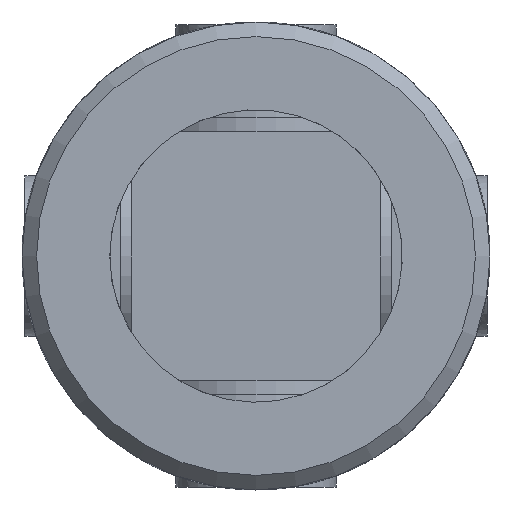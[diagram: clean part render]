
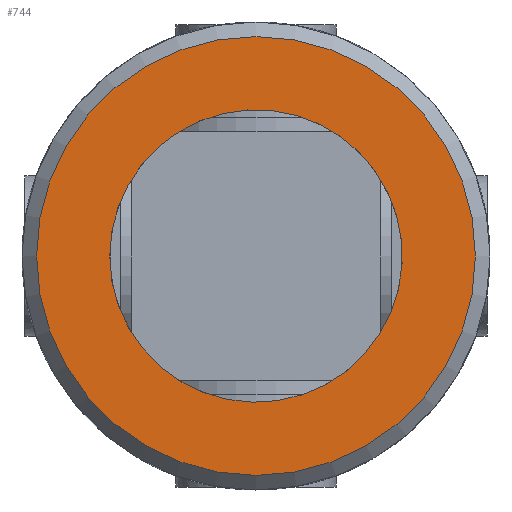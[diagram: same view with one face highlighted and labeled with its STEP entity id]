
A CAD part, front view. The second image highlights one B-rep face of the part: STEP entity #744.
In plain terms, the highlighted planar face has unit normal (0, -1, 0).
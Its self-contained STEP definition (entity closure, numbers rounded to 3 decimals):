
#143=PLANE('',#816);
#168=FACE_BOUND('',#259,.T.);
#195=FACE_OUTER_BOUND('',#258,.T.);
#258=EDGE_LOOP('',(#594));
#259=EDGE_LOOP('',(#595));
#300=CIRCLE('',#801,10.);
#308=CIRCLE('',#814,15.);
#348=VERTEX_POINT('',#1147);
#362=VERTEX_POINT('',#1241);
#423=EDGE_CURVE('',#348,#348,#300,.T.);
#442=EDGE_CURVE('',#362,#362,#308,.T.);
#594=ORIENTED_EDGE('',*,*,#442,.F.);
#595=ORIENTED_EDGE('',*,*,#423,.T.);
#744=ADVANCED_FACE('',(#195,#168),#143,.F.);
#801=AXIS2_PLACEMENT_3D('',#1148,#936,#937);
#814=AXIS2_PLACEMENT_3D('',#1242,#967,#968);
#816=AXIS2_PLACEMENT_3D('',#1454,#975,#976);
#936=DIRECTION('center_axis',(0.,1.,0.));
#937=DIRECTION('ref_axis',(-1.,0.,0.));
#967=DIRECTION('center_axis',(0.,1.,0.));
#968=DIRECTION('ref_axis',(1.,0.,0.));
#975=DIRECTION('center_axis',(0.,1.,0.));
#976=DIRECTION('ref_axis',(0.,0.,1.));
#1147=CARTESIAN_POINT('',(10.,-51.,0.));
#1148=CARTESIAN_POINT('Origin',(0.,-51.,0.));
#1241=CARTESIAN_POINT('',(-15.,-51.,0.));
#1242=CARTESIAN_POINT('Origin',(0.,-51.,0.));
#1454=CARTESIAN_POINT('Origin',(0.,-51.,0.));
